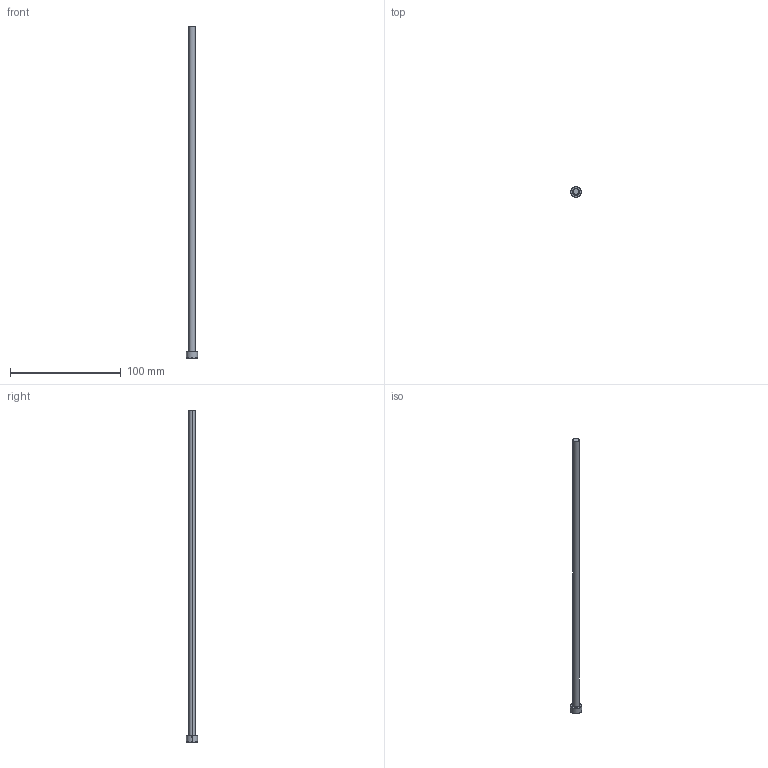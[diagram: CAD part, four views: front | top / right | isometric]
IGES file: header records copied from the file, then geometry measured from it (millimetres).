
Start section: SolidWorks IGES file using analytic representation for surfaces
Global section: file name: C:\Users\365admin\AppData\Local\Temp\InFlowXlateWorking\EPJ055L300.igs; native system: SolidWorks 2018; preprocessor: SolidWorks 2018; author: 365admin; date: 200822.063459; units: millimetre
Bounding box: 10 x 10 x 300 mm (x, y, z)
Surface area: 5415.9 mm2 (no closed solid volume)
Topology: 0 solids, 0 shells, 13 faces, 168 edges, 168 vertices
Faces by surface type: revolution 8, bspline 5
